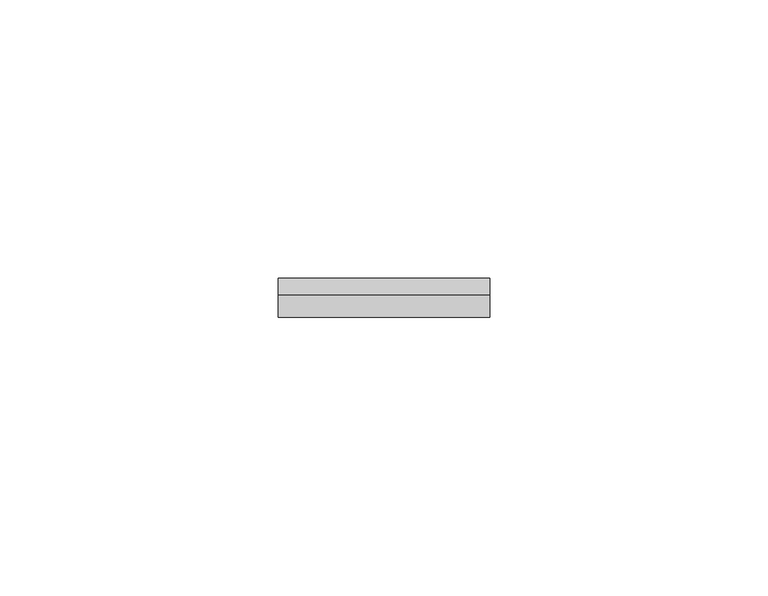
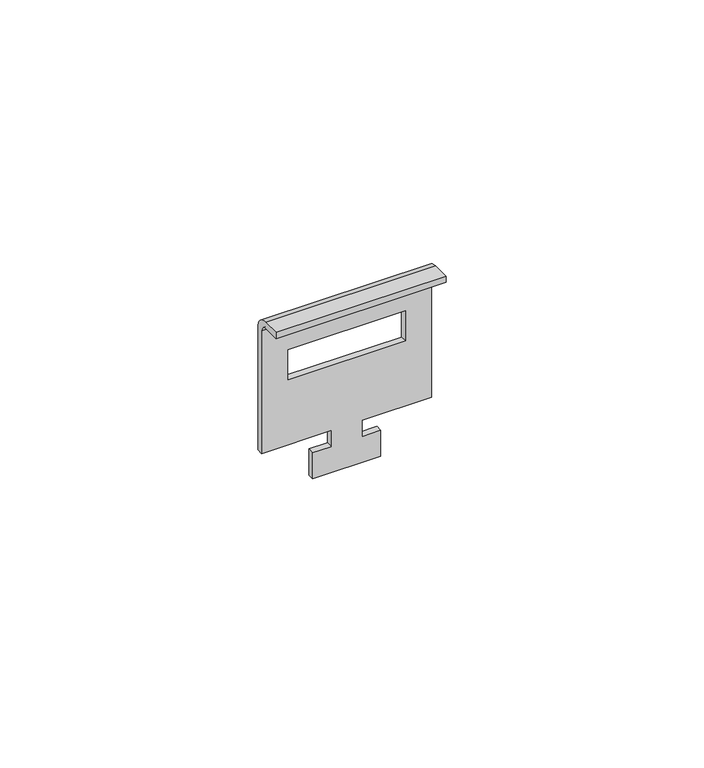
"""IFC4 building model written with IfcOpenShell, lengths in millimetres: proxy geometry, durlum_OM76_bracket : durlum_OM76_bracket."""

from ifc_helpers import new_model, si_unit, frame, origin, place, context, project, spatial, polyline, circle_curve, source, transform, mapped, element, save
from ifc_brep_helpers import plane_surface, cylinder_surface, revolved_surface, advanced_brep


def generic_models_84b6d0ed(model_context):
    return source(origin(), model_context, "Body", "AdvancedBrep", [
        advanced_brep(
        [(19.0, 0.0, 39.0), (19.0, -3.0, 42.0), (19.0, -7.0, 42.0), (19.0, -7.0, 40.5), (19.0, -3.0, 40.5), (19.0, -1.5, 39.0), (19.0, -1.5, 10.0), (19.0, 0.0, 10.0), (-19.0, -1.5, 39.0), (-19.0, -3.0, 40.5), (-19.0, -7.0, 40.5), (-19.0, -7.0, 42.0), (-19.0, -3.0, 42.0), (-19.0, 0.0, 39.0), (-19.0, 0.0, 10.0), (-19.0, -1.5, 10.0), (-3.3829687, -1.5, 10.0), (-3.3829687, -1.5, 6.1767369), (-7.6124317, -1.5, 6.1767369), (-7.6124317, -1.5, 0.0), (7.6124317, -1.5, 0.0), (7.6124317, -1.5, 6.1767369), (3.3829687, -1.5, 6.1767369), (3.3829687, -1.5, 10.0), (-13.110132, -1.5, 32.4903655), (13.110132, -1.5, 32.4903655), (13.110132, -1.5, 25.3698205), (-13.110132, -1.5, 25.3698205), (-7.6124317, 0.0, 0.0), (7.6124317, 0.0, 0.0), (3.3829687, 0.0, 10.0), (3.3829687, 0.0, 6.1767369), (7.6124317, 0.0, 6.1767369), (-7.6124317, 0.0, 6.1767369), (-3.3829687, 0.0, 6.1767369), (-3.3829687, 0.0, 10.0), (13.110132, 0.0, 32.4903655), (-13.110132, 0.0, 32.4903655), (-13.110132, 0.0, 25.3698205), (13.110132, 0.0, 25.3698205)],
        [
            (0, 1, circle_curve(frame((19.0, -3.0, 39.0), z_axis=(1.0, 0.0, 0.0), x_axis=(0.0, 1.0, 0.0)), 3.0)),
            (1, 2),
            (2, 3),
            (3, 4),
            (4, 5, circle_curve(frame((19.0, -3.0, 39.0), z_axis=(-1.0, 0.0, 0.0), x_axis=(0.0, 1.0, 0.0)), 1.5)),
            (5, 6),
            (6, 7),
            (7, 0),
            (8, 9, circle_curve(frame((-19.0, -3.0, 39.0), z_axis=(1.0, 0.0, 0.0), x_axis=(0.0, 1.0, 0.0)), 1.5)),
            (9, 10),
            (10, 11),
            (11, 12),
            (12, 13, circle_curve(frame((-19.0, -3.0, 39.0), z_axis=(-1.0, 0.0, 0.0), x_axis=(0.0, 1.0, 0.0)), 3.0)),
            (13, 14),
            (14, 15),
            (15, 8),
            (0, 13),
            (12, 1),
            (11, 2),
            (10, 3),
            (9, 4),
            (8, 5),
            (15, 16),
            (16, 17),
            (17, 18),
            (18, 19),
            (19, 20),
            (20, 21),
            (21, 22),
            (22, 23),
            (23, 6),
            (24, 25),
            (25, 26),
            (26, 27),
            (27, 24),
            (19, 28),
            (28, 29),
            (29, 20),
            (7, 30),
            (30, 31),
            (31, 32),
            (32, 29),
            (28, 33),
            (33, 34),
            (34, 35),
            (35, 14),
            (36, 37),
            (37, 38),
            (38, 39),
            (39, 36),
            (35, 16),
            (18, 33),
            (17, 34),
            (23, 30),
            (22, 31),
            (21, 32),
            (24, 37),
            (36, 25),
            (27, 38),
            (26, 39),
        ],
        [
            plane_surface(frame((19.0, 0.0, 39.0), z_axis=(1.0, 0.0, 0.0), x_axis=(0.0, 0.0, 1.0))),
            plane_surface(frame((-19.0, 0.0, 39.0), z_axis=(-1.0, 0.0, 0.0), x_axis=(0.0, 0.0, -1.0))),
            cylinder_surface(frame((-19.0, -3.0, 39.0), z_axis=(1.0, 0.0, 0.0), x_axis=(0.0, 1.0, 0.0)), 3.0),
            plane_surface(frame((19.0, -3.0, 42.0), z_axis=(0.0, 0.0, 1.0), x_axis=(-1.0, 0.0, 0.0))),
            plane_surface(frame((19.0, -7.0, 42.0), z_axis=(0.0, -1.0, 0.0), x_axis=(-1.0, 0.0, 0.0))),
            plane_surface(frame((19.0, -7.0, 40.5), z_axis=(0.0, 0.0, -1.0), x_axis=(-1.0, 0.0, 0.0))),
            revolved_surface(polyline([(-19.0, -1.5, 39.0), (19.0, -1.5, 39.0)]), (-19.0, -3.0, 39.0), (-1.0, 0.0, 0.0)),
            plane_surface(frame((19.0, -1.5, 39.0), z_axis=(0.0, -1.0, 0.0), x_axis=(-1.0, 0.0, 0.0))),
            plane_surface(frame((19.0, -1.5, 0.0), z_axis=(0.0, 0.0, -1.0), x_axis=(-1.0, 0.0, 0.0))),
            plane_surface(frame((19.0, 0.0, 0.0), z_axis=(0.0, 1.0, 0.0), x_axis=(-1.0, 0.0, 0.0))),
            plane_surface(frame((-3.3829687, -1.5, 10.0), z_axis=(0.0, 0.0, -1.0), x_axis=(0.0, 1.0, 0.0))),
            plane_surface(frame((-7.6124317, -1.5, 0.0), z_axis=(-1.0, 0.0, 0.0), x_axis=(0.0, 1.0, 0.0))),
            plane_surface(frame((-7.6124317, -1.5, 6.1767369), z_axis=(0.0, 0.0, 1.0), x_axis=(0.0, 1.0, 0.0))),
            plane_surface(frame((-3.3829687, -1.5, 6.1767369), z_axis=(-1.0, 0.0, 0.0), x_axis=(0.0, 1.0, 0.0))),
            plane_surface(frame((19.0, -1.5, 10.0), z_axis=(0.0, 0.0, -1.0), x_axis=(0.0, 1.0, 0.0))),
            plane_surface(frame((3.3829687, -1.5, 10.0), z_axis=(1.0, 0.0, 0.0), x_axis=(0.0, 1.0, 0.0))),
            plane_surface(frame((3.3829687, -1.5, 6.1767369), z_axis=(0.0, 0.0, 1.0), x_axis=(0.0, 1.0, 0.0))),
            plane_surface(frame((7.6124317, -1.5, 6.1767369), z_axis=(1.0, 0.0, 0.0), x_axis=(0.0, 1.0, 0.0))),
            plane_surface(frame((13.110132, -1.5, 32.4903655), z_axis=(0.0, 0.0, -1.0), x_axis=(0.0, 1.0, 0.0))),
            plane_surface(frame((-13.110132, -1.5, 32.4903655), z_axis=(1.0, 0.0, 0.0), x_axis=(0.0, 1.0, 0.0))),
            plane_surface(frame((-13.110132, -1.5, 25.3698205), z_axis=(0.0, 0.0, 1.0), x_axis=(0.0, 1.0, 0.0))),
            plane_surface(frame((13.110132, -1.5, 25.3698205), z_axis=(-1.0, 0.0, 0.0), x_axis=(0.0, 1.0, 0.0))),
        ],
        [
            (0, [[1, 2, 3, 4, 5, 6, 7, 8]]),
            (1, [[9, 10, 11, 12, 13, 14, 15, 16]]),
            (2, [[-1, 17, -13, 18]]),
            (3, [[-2, -18, -12, 19]]),
            (4, [[-3, -19, -11, 20]]),
            (5, [[-4, -20, -10, 21]]),
            (6, [[-5, -21, -9, 22]]),
            (7, [[-22, -16, 23, 24, 25, 26, 27, 28, 29, 30, 31, -6], [32, 33, 34, 35]]),
            (8, [[-27, 36, 37, 38]]),
            (9, [[-17, -8, 39, 40, 41, 42, -37, 43, 44, 45, 46, -14], [47, 48, 49, 50]]),
            (10, [[51, -23, -15, -46]]),
            (11, [[52, -43, -36, -26]]),
            (12, [[-52, -25, 53, -44]]),
            (13, [[-51, -45, -53, -24]]),
            (14, [[54, -39, -7, -31]]),
            (15, [[-54, -30, 55, -40]]),
            (16, [[-55, -29, 56, -41]]),
            (17, [[-56, -28, -38, -42]]),
            (18, [[57, -47, 58, -32]]),
            (19, [[-57, -35, 59, -48]]),
            (20, [[-59, -34, 60, -49]]),
            (21, [[-58, -50, -60, -33]]),
        ],
    ),
    ])


if __name__ == "__main__":
    model = new_model("IFC4")
    model_context = context("Model", 3, world=origin())
    ifc_project = project(units=[si_unit("LENGTHUNIT", "METRE", prefix="MILLI")], contexts=[model_context])
    site = spatial("IfcSite", under=ifc_project)
    building = spatial("IfcBuilding", under=site)
    placement = place(None, origin())
    generic_models_shape = generic_models_84b6d0ed(model_context)
    element("IfcBuildingElementProxy", 1, Name="durlum_OM76_bracket : durlum_OM76_bracket", ObjectType="durlum_OM76_bracket : durlum_OM76_bracket", at=placement, inside=building, context=model_context, shape_type="MappedRepresentation", body=[
        mapped(generic_models_shape, transform((0.0, 0.0, 0.0), x_axis=(1.0, 0.0, 0.0), y_axis=(0.0, 1.0, 0.0), z_axis=(0.0, 0.0, 1.0))),
    ])
    save(model, "model.ifc")
